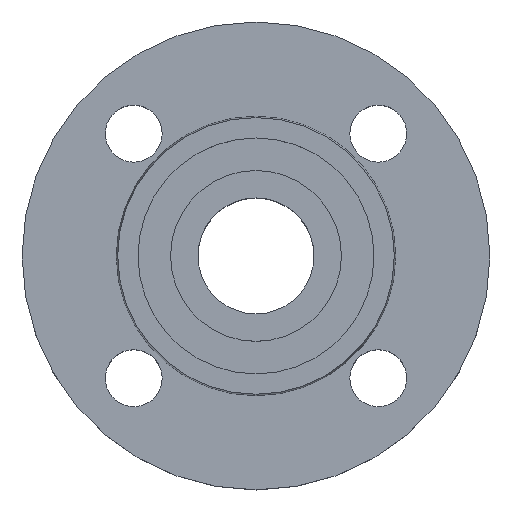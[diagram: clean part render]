
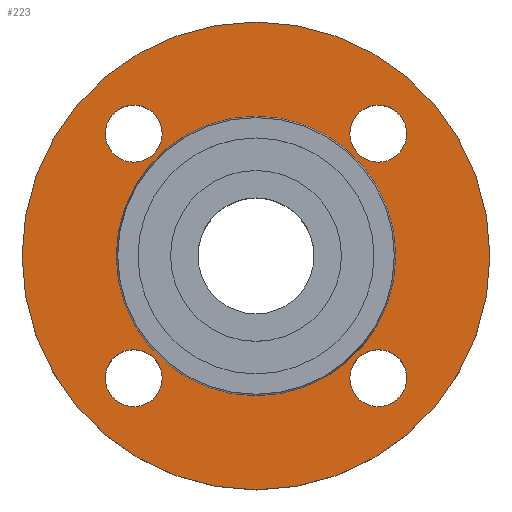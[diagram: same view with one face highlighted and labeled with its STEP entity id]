
A CAD part, top view. The second image highlights one B-rep face of the part: STEP entity #223.
In plain terms, the highlighted planar face has unit normal (0, 0, 1).
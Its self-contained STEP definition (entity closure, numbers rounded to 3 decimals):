
#4 = CIRCLE ( 'NONE', #7, 34.353 ) ;
#7 = AXIS2_PLACEMENT_3D ( 'NONE', #954, #955, #956 ) ;
#23 = DIRECTION ( 'NONE',  ( 1., 0., 0. ) ) ;
#24 = DIRECTION ( 'NONE',  ( 0., 0., -1. ) ) ;
#26 = EDGE_CURVE ( 'NONE', #947, #670, #4, .T. ) ;
#27 = DIRECTION ( 'NONE',  ( 0., 0., -1. ) ) ;
#32 = CARTESIAN_POINT ( 'NONE',  ( 23.052, 30.052, -2. ) ) ;
#33 = DIRECTION ( 'NONE',  ( 1., 0., 0. ) ) ;
#34 = CARTESIAN_POINT ( 'NONE',  ( -30.052, 30.052, -2. ) ) ;
#91 = DIRECTION ( 'NONE',  ( -1., 0., 0. ) ) ;
#92 = DIRECTION ( 'NONE',  ( 0., 0., -1. ) ) ;
#93 = CARTESIAN_POINT ( 'NONE',  ( 0., 0., -2. ) ) ;
#113 = DIRECTION ( 'NONE',  ( -1., 0., 0. ) ) ;
#114 = DIRECTION ( 'NONE',  ( 0., 0., -1. ) ) ;
#115 = CARTESIAN_POINT ( 'NONE',  ( 0., 0., -2. ) ) ;
#132 = CARTESIAN_POINT ( 'NONE',  ( 23.052, -30.052, -2. ) ) ;
#134 = CARTESIAN_POINT ( 'NONE',  ( -30.052, -30.052, -2. ) ) ;
#135 = DIRECTION ( 'NONE',  ( 0., 0., -1. ) ) ;
#137 = DIRECTION ( 'NONE',  ( 1., 0., 0. ) ) ;
#178 = DIRECTION ( 'NONE',  ( 1., 0., 0. ) ) ;
#181 = DIRECTION ( 'NONE',  ( 0., 0., -1. ) ) ;
#185 = CARTESIAN_POINT ( 'NONE',  ( -30.052, -30.052, -2. ) ) ;
#186 = CARTESIAN_POINT ( 'NONE',  ( -23.052, -30.052, -2. ) ) ;
#192 = CARTESIAN_POINT ( 'NONE',  ( 57.5, 0., -2. ) ) ;
#214 = AXIS2_PLACEMENT_3D ( 'NONE', #496, #499, #501 ) ;
#223 = ADVANCED_FACE ( 'NONE', ( #487, #488, #490, #491, #492, #494 ), #495, .T. ) ;
#236 = CIRCLE ( 'NONE', #616, 7. ) ;
#239 = AXIS2_PLACEMENT_3D ( 'NONE', #34, #24, #23 ) ;
#253 = CARTESIAN_POINT ( 'NONE',  ( 30.052, 30.052, -2. ) ) ;
#254 = DIRECTION ( 'NONE',  ( 0., 0., -1. ) ) ;
#256 = DIRECTION ( 'NONE',  ( 1., 0., 0. ) ) ;
#259 = DIRECTION ( 'NONE',  ( 0., 0., -1. ) ) ;
#269 = CIRCLE ( 'NONE', #271, 7. ) ;
#271 = AXIS2_PLACEMENT_3D ( 'NONE', #253, #27, #256 ) ;
#272 = CIRCLE ( 'NONE', #274, 7. ) ;
#274 = AXIS2_PLACEMENT_3D ( 'NONE', #368, #259, #617 ) ;
#279 = CIRCLE ( 'NONE', #281, 7. ) ;
#281 = AXIS2_PLACEMENT_3D ( 'NONE', #374, #254, #33 ) ;
#290 = DIRECTION ( 'NONE',  ( -1., 0., 0. ) ) ;
#294 = CARTESIAN_POINT ( 'NONE',  ( 0., 0., -2. ) ) ;
#299 = DIRECTION ( 'NONE',  ( 0., 0., -1. ) ) ;
#307 = CIRCLE ( 'NONE', #309, 57.5 ) ;
#309 = AXIS2_PLACEMENT_3D ( 'NONE', #294, #299, #290 ) ;
#320 = CARTESIAN_POINT ( 'NONE',  ( -30.052, 30.052, -2. ) ) ;
#321 = CIRCLE ( 'NONE', #322, 7. ) ;
#322 = AXIS2_PLACEMENT_3D ( 'NONE', #568, #327, #346 ) ;
#327 = DIRECTION ( 'NONE',  ( 0., 0., -1. ) ) ;
#346 = DIRECTION ( 'NONE',  ( 1., 0., 0. ) ) ;
#359 = EDGE_CURVE ( 'NONE', #719, #767, #269, .T. ) ;
#361 = EDGE_CURVE ( 'NONE', #897, #647, #272, .T. ) ;
#368 = CARTESIAN_POINT ( 'NONE',  ( 30.052, -30.052, -2. ) ) ;
#374 = CARTESIAN_POINT ( 'NONE',  ( 30.052, 30.052, -2. ) ) ;
#380 = CIRCLE ( 'NONE', #393, 7. ) ;
#385 = AXIS2_PLACEMENT_3D ( 'NONE', #320, #535, #778 ) ;
#393 = AXIS2_PLACEMENT_3D ( 'NONE', #185, #181, #178 ) ;
#394 = EDGE_CURVE ( 'NONE', #767, #719, #279, .T. ) ;
#400 = CARTESIAN_POINT ( 'NONE',  ( -37.052, 30.052, -2. ) ) ;
#403 = CARTESIAN_POINT ( 'NONE',  ( -23.052, 30.052, -2. ) ) ;
#412 = EDGE_CURVE ( 'NONE', #758, #934, #307, .T. ) ;
#425 = EDGE_CURVE ( 'NONE', #647, #897, #321, .T. ) ;
#487 = FACE_BOUND ( 'NONE', #797, .T. ) ;
#488 = FACE_BOUND ( 'NONE', #931, .T. ) ;
#489 = CARTESIAN_POINT ( 'NONE',  ( -34.353, 0., -2. ) ) ;
#490 = FACE_BOUND ( 'NONE', #677, .T. ) ;
#491 = FACE_BOUND ( 'NONE', #828, .T. ) ;
#492 = FACE_BOUND ( 'NONE', #915, .T. ) ;
#494 = FACE_OUTER_BOUND ( 'NONE', #673, .T. ) ;
#495 = PLANE ( 'NONE',  #214 ) ;
#496 = CARTESIAN_POINT ( 'NONE',  ( 34.353, 0., -2. ) ) ;
#499 = DIRECTION ( 'NONE',  ( 0., 0., 1. ) ) ;
#501 = DIRECTION ( 'NONE',  ( 1., 0., 0. ) ) ;
#509 = AXIS2_PLACEMENT_3D ( 'NONE', #115, #114, #113 ) ;
#535 = DIRECTION ( 'NONE',  ( 0., 0., -1. ) ) ;
#544 = CARTESIAN_POINT ( 'NONE',  ( -57.5, 0., -2. ) ) ;
#553 = EDGE_CURVE ( 'NONE', #820, #681, #380, .T. ) ;
#555 = CARTESIAN_POINT ( 'NONE',  ( 37.052, -30.052, -2. ) ) ;
#568 = CARTESIAN_POINT ( 'NONE',  ( 30.052, -30.052, -2. ) ) ;
#583 = EDGE_CURVE ( 'NONE', #681, #820, #236, .T. ) ;
#590 = CARTESIAN_POINT ( 'NONE',  ( -37.052, -30.052, -2. ) ) ;
#593 = EDGE_CURVE ( 'NONE', #934, #758, #891, .T. ) ;
#597 = CIRCLE ( 'NONE', #634, 34.353 ) ;
#602 = EDGE_CURVE ( 'NONE', #670, #947, #597, .T. ) ;
#608 = CARTESIAN_POINT ( 'NONE',  ( 34.353, 0., -2. ) ) ;
#616 = AXIS2_PLACEMENT_3D ( 'NONE', #134, #135, #137 ) ;
#617 = DIRECTION ( 'NONE',  ( 1., 0., 0. ) ) ;
#625 = EDGE_CURVE ( 'NONE', #796, #945, #815, .T. ) ;
#634 = AXIS2_PLACEMENT_3D ( 'NONE', #93, #92, #91 ) ;
#647 = VERTEX_POINT ( 'NONE', #132 ) ;
#668 = CARTESIAN_POINT ( 'NONE',  ( 37.052, 30.052, -2. ) ) ;
#670 = VERTEX_POINT ( 'NONE', #489 ) ;
#673 = EDGE_LOOP ( 'NONE', ( #803, #804 ) ) ;
#677 = EDGE_LOOP ( 'NONE', ( #793, #795 ) ) ;
#681 = VERTEX_POINT ( 'NONE', #590 ) ;
#684 = EDGE_CURVE ( 'NONE', #945, #796, #710, .T. ) ;
#710 = CIRCLE ( 'NONE', #385, 7. ) ;
#719 = VERTEX_POINT ( 'NONE', #32 ) ;
#758 = VERTEX_POINT ( 'NONE', #544 ) ;
#767 = VERTEX_POINT ( 'NONE', #668 ) ;
#778 = DIRECTION ( 'NONE',  ( 1., 0., 0. ) ) ;
#789 = ORIENTED_EDGE ( 'NONE', *, *, #361, .T. ) ;
#790 = ORIENTED_EDGE ( 'NONE', *, *, #425, .T. ) ;
#791 = ORIENTED_EDGE ( 'NONE', *, *, #553, .T. ) ;
#792 = ORIENTED_EDGE ( 'NONE', *, *, #583, .T. ) ;
#793 = ORIENTED_EDGE ( 'NONE', *, *, #684, .T. ) ;
#795 = ORIENTED_EDGE ( 'NONE', *, *, #625, .T. ) ;
#796 = VERTEX_POINT ( 'NONE', #400 ) ;
#797 = EDGE_LOOP ( 'NONE', ( #789, #790 ) ) ;
#798 = ORIENTED_EDGE ( 'NONE', *, *, #394, .T. ) ;
#799 = ORIENTED_EDGE ( 'NONE', *, *, #359, .T. ) ;
#800 = ORIENTED_EDGE ( 'NONE', *, *, #602, .T. ) ;
#801 = ORIENTED_EDGE ( 'NONE', *, *, #26, .T. ) ;
#803 = ORIENTED_EDGE ( 'NONE', *, *, #593, .F. ) ;
#804 = ORIENTED_EDGE ( 'NONE', *, *, #412, .F. ) ;
#815 = CIRCLE ( 'NONE', #239, 7. ) ;
#820 = VERTEX_POINT ( 'NONE', #186 ) ;
#828 = EDGE_LOOP ( 'NONE', ( #798, #799 ) ) ;
#891 = CIRCLE ( 'NONE', #509, 57.5 ) ;
#897 = VERTEX_POINT ( 'NONE', #555 ) ;
#915 = EDGE_LOOP ( 'NONE', ( #800, #801 ) ) ;
#931 = EDGE_LOOP ( 'NONE', ( #791, #792 ) ) ;
#934 = VERTEX_POINT ( 'NONE', #192 ) ;
#945 = VERTEX_POINT ( 'NONE', #403 ) ;
#947 = VERTEX_POINT ( 'NONE', #608 ) ;
#954 = CARTESIAN_POINT ( 'NONE',  ( 0., 0., -2. ) ) ;
#955 = DIRECTION ( 'NONE',  ( 0., 0., -1. ) ) ;
#956 = DIRECTION ( 'NONE',  ( -1., 0., 0. ) ) ;
